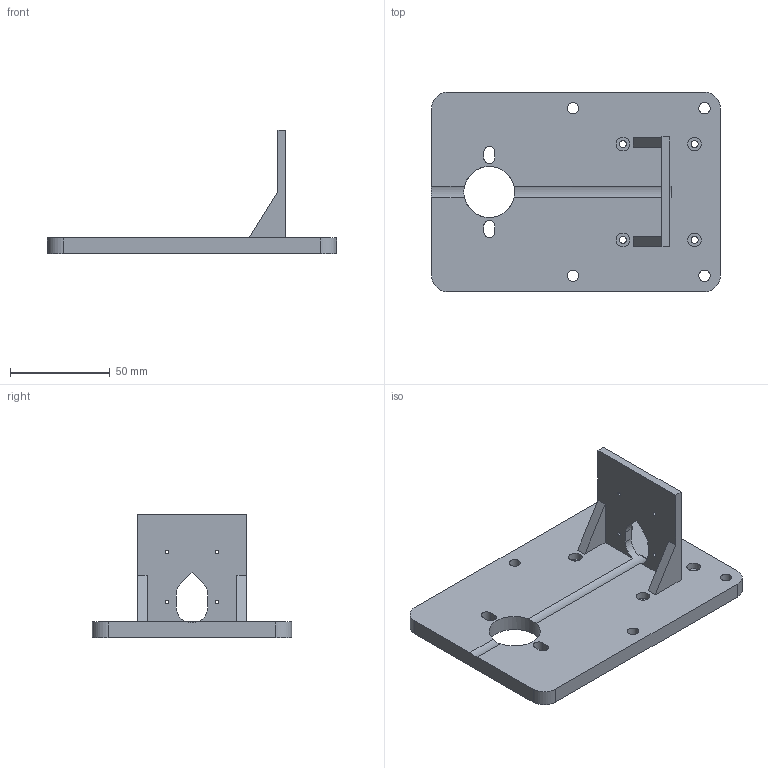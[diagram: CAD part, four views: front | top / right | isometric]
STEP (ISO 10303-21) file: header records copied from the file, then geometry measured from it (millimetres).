
FILE_DESCRIPTION(('FreeCAD Model'),'2;1');
FILE_NAME('Open CASCADE Shape Model','2026-11-13T02:38:18',('FreeCAD'),( 'FreeCAD'),'Open CASCADE STEP processor 7.8','FreeCAD','Unknown');
FILE_SCHEMA(('AUTOMOTIVE_DESIGN { 1 0 10303 214 1 1 1 1 }'));
Length unit declared in the file: millimetre
Products named in the file (1): Open CASCADE STEP translator 7.8 1
Bounding box: 145 x 100 x 62 mm (x, y, z)
Volume: 121397.5 mm3; surface area: 39979.3 mm2
Topology: 1 solids, 1 shells, 57 faces, 165 edges, 111 vertices
Faces by surface type: cylinder 29, plane 28
Full cylindrical faces by diameter (mm): 1.8 x4, 3.6 x4, 5.7 x4, 6.8 x4, 25.6 x1
Entity records: 2016 total; most frequent: CARTESIAN_POINT 378, DIRECTION 340, ORIENTED_EDGE 330, EDGE_CURVE 165, AXIS2_PLACEMENT_3D 121, VERTEX_POINT 111, LINE 98, VECTOR 98
